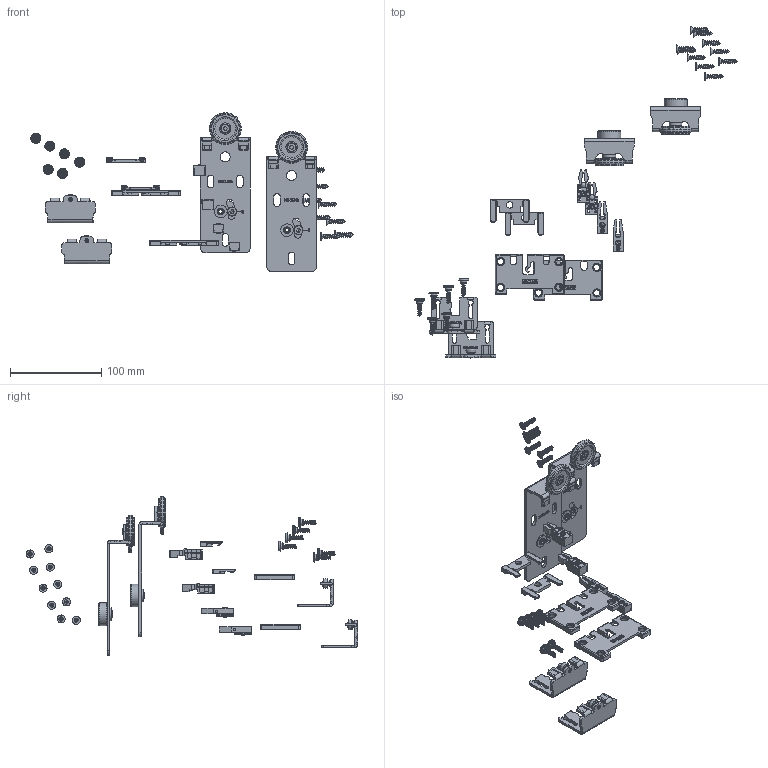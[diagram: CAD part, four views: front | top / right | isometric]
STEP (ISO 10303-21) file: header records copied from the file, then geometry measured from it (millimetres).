
FILE_DESCRIPTION((''),'2;1');
FILE_NAME('P:\CommonShare\Exportdateien\STP\103960-B-001.stp','2013-03-26T13:58:47',(''),('EKU AG'),'Autodesk Inventor 2010','Autodesk Inventor 2010','');
FILE_SCHEMA(('AUTOMOTIVE_DESIGN { 1 0 10303 214 1 1 1 1 }'));
Length unit declared in the file: millimetre
Products named in the file (21): 103960 Schreibgeschützt; 100230-T; 100785-T; 100784-B; 100738-2-T; 100055-5-T; 103741; 103740; 100085-3-T; 100491-T; 100492-T.ipt Schreibgeschützt; 600-0000-184-T; 100793-2-T; 100363-B; 764-6062-110-T; 100360-2-T; 103498-B; 103498-2-B-01; 103497-T-01; 100361-T; 600.0000.167
Assembly tree (41 placements, depth 4):
  103960 Schreibgeschützt
    100230-T  x2
    100785-T  x2
    100784-B  x2
      100738-2-T
      100055-5-T
    103741  x2
      103740
      100085-3-T
      100491-T
      100492-T.ipt Schreibgeschützt
      600-0000-184-T
    100793-2-T  x6
    100363-B  x2
      764-6062-110-T
      100360-2-T
    103498-B  x2
      103498-2-B-01
        103497-T-01
        100361-T
      764-6062-110-T
    600.0000.167  x10
Bounding box: 353.27 x 363.71 x 173.95 mm (x, y, z)
Volume: 114780.8 mm3; surface area: 100146.6 mm2
Topology: 42 solids, 62 shells, 3024 faces, 7780 edges, 4942 vertices
Faces by surface type: plane 1372, cylinder 854, bspline 386, cone 218, torus 174, sphere 20
Full cylindrical faces by diameter (mm): 1.029 x2, 1.23 x2, 2.7 x36, 2.9 x2, 3.5 x2, 3.6 x2, 4 x6, 4.2 x2, 4.5 x2, 4.853 x2, 5 x4, 5.2 x2, 5.5 x4, 6 x6, 6.6 x2, 6.8 x8, 7 x8, 7.4 x2, 7.5 x2, 7.55 x2, 8.8 x10, 9 x2, 10 x4, 11 x2, 12 x8, 13.9 x2, 25 x2, 26 x2, 31 x4, 35 x2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
Entity records: 43044 total; most frequent: CARTESIAN_POINT 12615, DIRECTION 6114, ORIENTED_EDGE 6022, EDGE_CURVE 3011, AXIS2_PLACEMENT_3D 2177, VERTEX_POINT 1977, VECTOR 1760, LINE 1760
